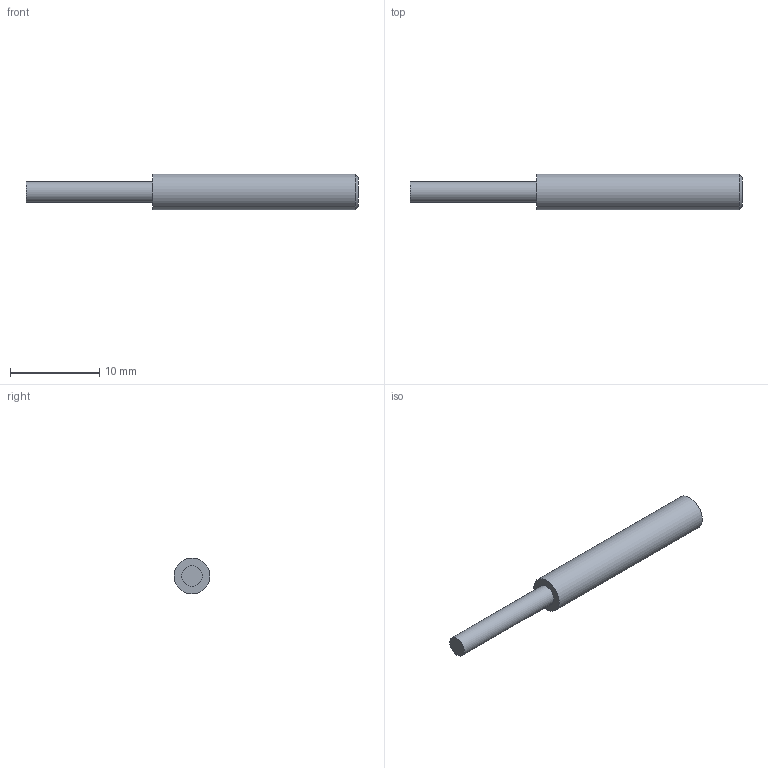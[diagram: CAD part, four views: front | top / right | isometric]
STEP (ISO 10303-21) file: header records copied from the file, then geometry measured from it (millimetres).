
FILE_DESCRIPTION(/* description */ ('STEP AP203'),/* implementation_level */ '2;1');
FILE_NAME(/* name */ 'P_MZ_FO_0124',/* time_stamp */ '2023-03-03T13:02:07+01:00',/* author */ ('License CC BY-ND 4.0'),/* organization */ ('CADENAS'),/* preprocessor_version */ 'ST-DEVELOPER v18.102',/* originating_system */ 'PARTsolutions',/* authorisation */ ' ');
FILE_SCHEMA (('CONFIG_CONTROL_DESIGN'));
Length unit declared in the file: millimetre
Products named in the file (1): P_MZ_FO_0124
Bounding box: 37.2 x 4 x 4 mm (x, y, z)
Volume: 347.3 mm3; surface area: 414.1 mm2
Topology: 1 solids, 1 shells, 6 faces, 8 edges, 5 vertices
Faces by surface type: plane 3, cylinder 2, cone 1
Full cylindrical faces by diameter (mm): 2.3 x1, 4 x1
Entity records: 180 total; most frequent: DIRECTION 24, CARTESIAN_POINT 17, AXIS2_PLACEMENT_3D 12, ORIENTED_EDGE 10, EDGE_LOOP 10, FACE_BOUND 10, STYLED_ITEM 6, PRESENTATION_STYLE_ASSIGNMENT 6
